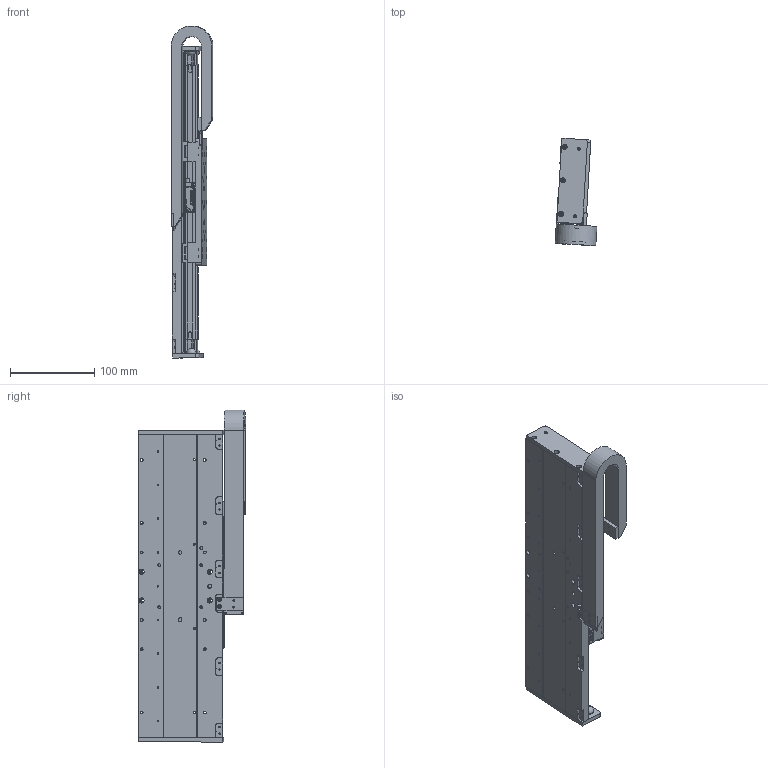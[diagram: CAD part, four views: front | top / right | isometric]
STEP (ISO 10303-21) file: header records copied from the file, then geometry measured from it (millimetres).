
FILE_DESCRIPTION(/* description */ ('MSR100 BASE'),/* implementation_level */ '2;1');
FILE_NAME(/* name */ 'I:\FY15 Projects\MSR\MSR100\Web Step Models\mSR100L-200XLDXXXXXXCM13.stp',/* time_stamp */ '2015-02-18T13:24:54-05:00',/* author */ ('BF20108'),/* organization */ (''),/* preprocessor_version */ 'ST-DEVELOPER v15.2',/* originating_system */ 'Autodesk Inventor 2014',/* authorisation */ '');
FILE_SCHEMA (('AUTOMOTIVE_DESIGN { 1 0 10303 214 3 1 1 }'));
Products named in the file (17): 102-5710-06; 003-3562-38; 102-5702-05; ml18-120m-n; 102-5703-01; 102-5705-01; 002-3740-06; 003-3561; 003-5000; 102-5708; ML18-5E; 002-3740-long-carriage-assy; mx100-mcb; mx100-scb; e045-16-018-carrier-10; 002-3740-cbl-carr-lc-03; 002-3740
Bounding box: 49.76 x 127.64 x 394.13 mm (x, y, z)
Volume: 702666.5 mm3; surface area: 327842 mm2
Topology: 24 solids, 25 shells, 2562 faces, 6895 edges, 4444 vertices
Faces by surface type: plane 1310, cylinder 933, cone 163, torus 144, bspline 8, sphere 4
Full cylindrical faces by diameter (mm): 0.5 x8, 1 x4, 1.567 x81, 1.588 x2, 2.007 x18, 2.013 x13, 2.135 x4, 2.4 x48, 2.459 x22, 2.5 x20, 2.642 x4, 2.75 x1, 3 x25, 3.242 x10, 3.4 x26, 3.505 x4, 4 x4, 4.17 x2, 4.2 x49, 4.5 x18, 5 x9, 5.08 x2, 6 x30, 11.176 x4
Entity records: 51095 total; most frequent: CARTESIAN_POINT 9612, DIRECTION 8526, ORIENTED_EDGE 7940, EDGE_CURVE 3958, AXIS2_PLACEMENT_3D 2980, VERTEX_POINT 2798, LINE 2566, VECTOR 2566
